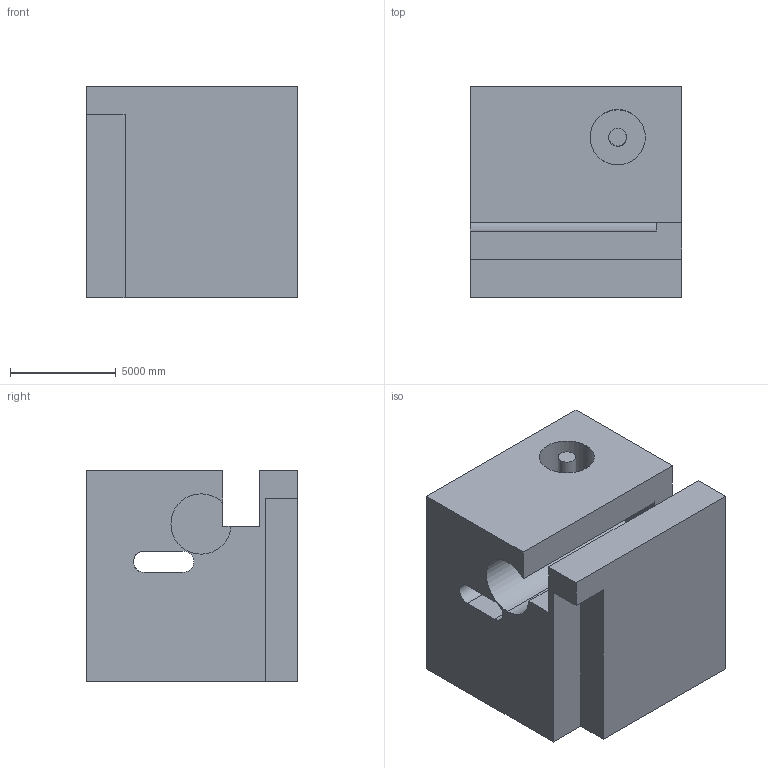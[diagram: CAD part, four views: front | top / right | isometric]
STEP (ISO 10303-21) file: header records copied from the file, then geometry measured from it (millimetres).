
FILE_DESCRIPTION (( 'STEP AP203' ), '1' );
FILE_NAME ('1440.STEP', '2022-08-25T14:57:26', ( 'user' ), ( '' ), 'SwSTEP 2.0', 'SolidWorks 2021', '' );
FILE_SCHEMA (( 'CONFIG_CONTROL_DESIGN' ));
Length unit declared in the file: centimetre
Products named in the file (1): 1440
Bounding box: 10000 x 10000 x 10000 mm (x, y, z)
Volume: 815896190297 mm3; surface area: 831886661.2 mm2
Topology: 1 solids, 1 shells, 33 faces, 93 edges, 62 vertices
Faces by surface type: plane 20, cylinder 13
Entity records: 1596 total; most frequent: CARTESIAN_POINT 655, ORIENTED_EDGE 186, DIRECTION 171, EDGE_CURVE 93, VERTEX_POINT 62, LINE 59, VECTOR 59, AXIS2_PLACEMENT_3D 56
